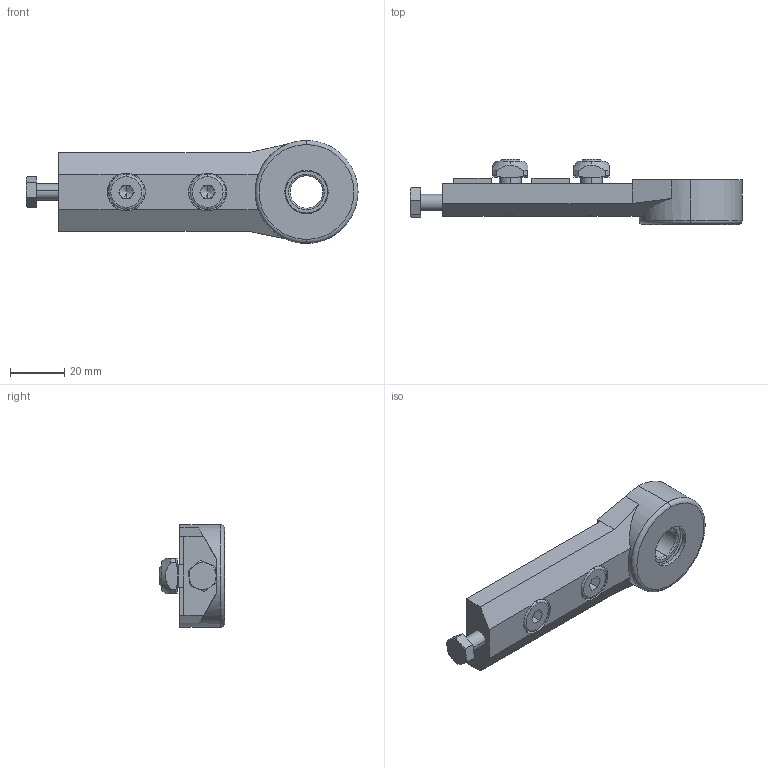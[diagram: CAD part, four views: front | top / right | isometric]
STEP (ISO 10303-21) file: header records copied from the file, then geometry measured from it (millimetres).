
FILE_DESCRIPTION (( 'STEP AP214' ), '1' );
FILE_NAME ('1.8072 kuljetinhihnalaakeri 30 reiällä.STEP', '2026-02-27T11:29:15', ( '' ), ( '' ), 'SwSTEP 2.0', 'SolidWorks 2025', '' );
FILE_SCHEMA (( 'AUTOMOTIVE_DESIGN' ));
Length unit declared in the file: millimetre
Products named in the file (6): 1.2161 kuusiokantaruuvi M6x25; 1.8072 kuljetinhihnalaakeri 30 reiällä; L00050 Kuljetinlaakeri 30 reiällä; 4.0034 Laakeri 2201-2rs; 1.2009 Neliömutteri M8; 1.2083 Kuusiokoloruuvi M8x16
Assembly tree (7 placements, depth 2):
  1.8072 kuljetinhihnalaakeri 30 reiällä
    L00050 Kuljetinlaakeri 30 reiällä
    1.2083 Kuusiokoloruuvi M8x16  x2
    1.2009 Neliömutteri M8  x2
    1.2161 kuusiokantaruuvi M6x25
    4.0034 Laakeri 2201-2rs
Bounding box: 122.5 x 24 x 38 mm (x, y, z)
Volume: 32669.6 mm3; surface area: 19298 mm2
Topology: 6 solids, 10 shells, 191 faces, 460 edges, 290 vertices
Faces by surface type: plane 93, cylinder 40, cone 40, torus 10, bspline 8
Entity records: 5299 total; most frequent: CARTESIAN_POINT 1166, DIRECTION 716, ORIENTED_EDGE 680, EDGE_CURVE 348, AXIS2_PLACEMENT_3D 281, VERTEX_POINT 223, EDGE_LOOP 165, VECTOR 154
